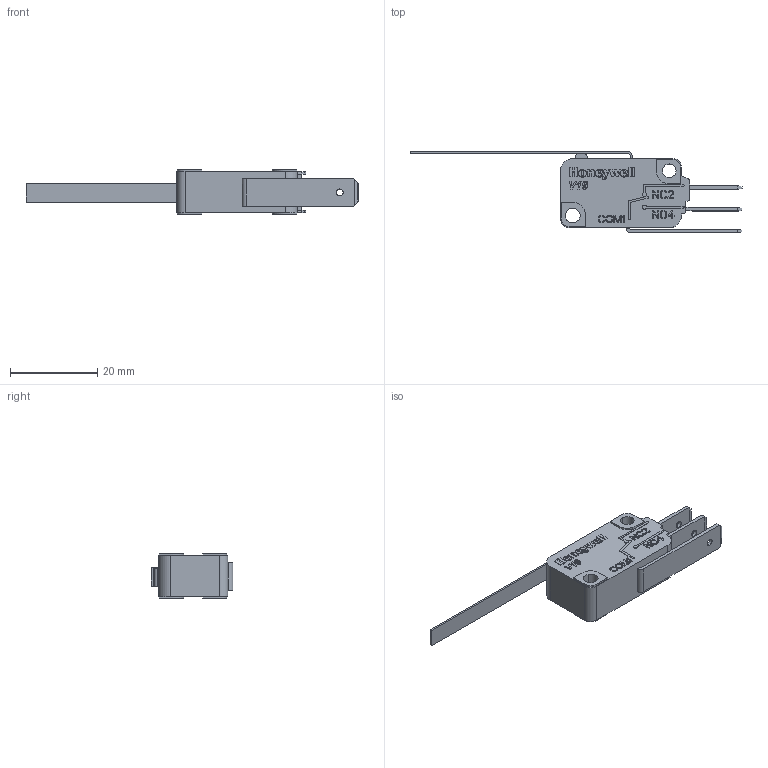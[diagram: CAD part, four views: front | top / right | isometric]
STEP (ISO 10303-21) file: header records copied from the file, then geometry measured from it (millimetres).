
FILE_DESCRIPTION((''),'2;1');
FILE_NAME('V19S05-HZ015A03_SW0001','2020-06-16T14:24:27',('H260800'),(''),'CREO PARAMETRIC BY PTC INC, 2017380','CREO PARAMETRIC BY PTC INC, 2017380','');
FILE_SCHEMA(('CONFIG_CONTROL_DESIGN'));
Length unit declared in the file: millimetre
Products named in the file (1): V19S05-HZ015A03_SW0001
Bounding box: 76.29 x 18.74 x 10.2 mm (x, y, z)
Volume: 4442.8 mm3; surface area: 3265.8 mm2
Topology: 1 solids, 1 shells, 647 faces, 1832 edges, 1223 vertices
Faces by surface type: plane 483, extrusion 101, cylinder 61, bspline 2
Entity records: 23283 total; most frequent: CARTESIAN_POINT 6676, ORIENTED_EDGE 3664, DIRECTION 2949, EDGE_CURVE 1832, VECTOR 1591, LINE 1490, VERTEX_POINT 1223, EDGE_LOOP 699
